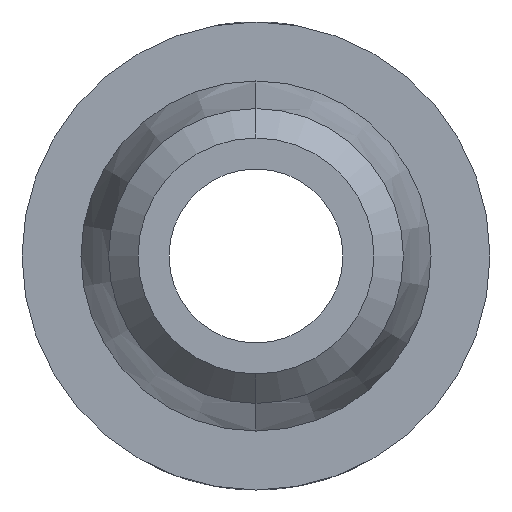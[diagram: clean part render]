
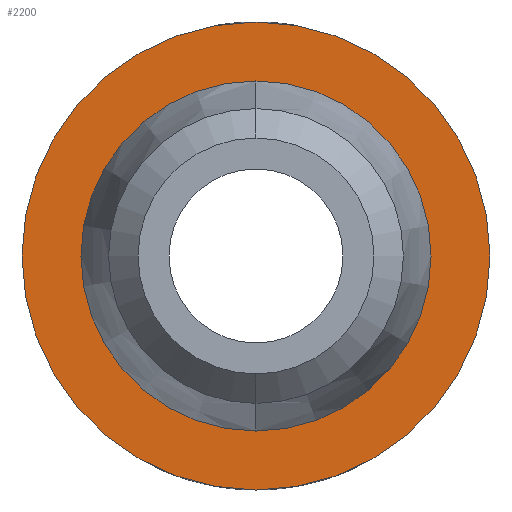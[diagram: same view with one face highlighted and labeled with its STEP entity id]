
A CAD part, left-side view. The second image highlights one B-rep face of the part: STEP entity #2200.
In plain terms, the highlighted planar face has unit normal (1, 0, 0).
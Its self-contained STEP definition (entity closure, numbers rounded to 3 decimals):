
#39=PLANE('',#2517);
#60=FACE_BOUND('',#303,.T.);
#135=CIRCLE('',#2518,3.175);
#136=CIRCLE('',#2519,2.375);
#215=FACE_OUTER_BOUND('',#302,.T.);
#302=EDGE_LOOP('',(#1801));
#303=EDGE_LOOP('',(#1802));
#999=VERTEX_POINT('',#4131);
#1000=VERTEX_POINT('',#4133);
#1400=EDGE_CURVE('',#999,#999,#135,.T.);
#1401=EDGE_CURVE('',#1000,#1000,#136,.T.);
#1801=ORIENTED_EDGE('',*,*,#1400,.T.);
#1802=ORIENTED_EDGE('',*,*,#1401,.T.);
#2200=ADVANCED_FACE('',(#215,#60),#39,.T.);
#2517=AXIS2_PLACEMENT_3D('',#4130,#2803,#2804);
#2518=AXIS2_PLACEMENT_3D('',#4132,#2805,#2806);
#2519=AXIS2_PLACEMENT_3D('',#4134,#2807,#2808);
#2803=DIRECTION('center_axis',(1.,0.,0.));
#2804=DIRECTION('ref_axis',(0.,0.,-1.));
#2805=DIRECTION('center_axis',(1.,0.,0.));
#2806=DIRECTION('ref_axis',(0.,0.,-1.));
#2807=DIRECTION('center_axis',(-1.,0.,0.));
#2808=DIRECTION('ref_axis',(0.,0.,
-1.));
#4130=CARTESIAN_POINT('Origin',(-4.5,-3.213,0.));
#4131=CARTESIAN_POINT('',(-4.5,0.,3.175));
#4132=CARTESIAN_POINT('Origin',(-4.5,0.,0.));
#4133=CARTESIAN_POINT('',(-4.5,0.,2.375));
#4134=CARTESIAN_POINT('Origin',(-4.5,0.,0.));
